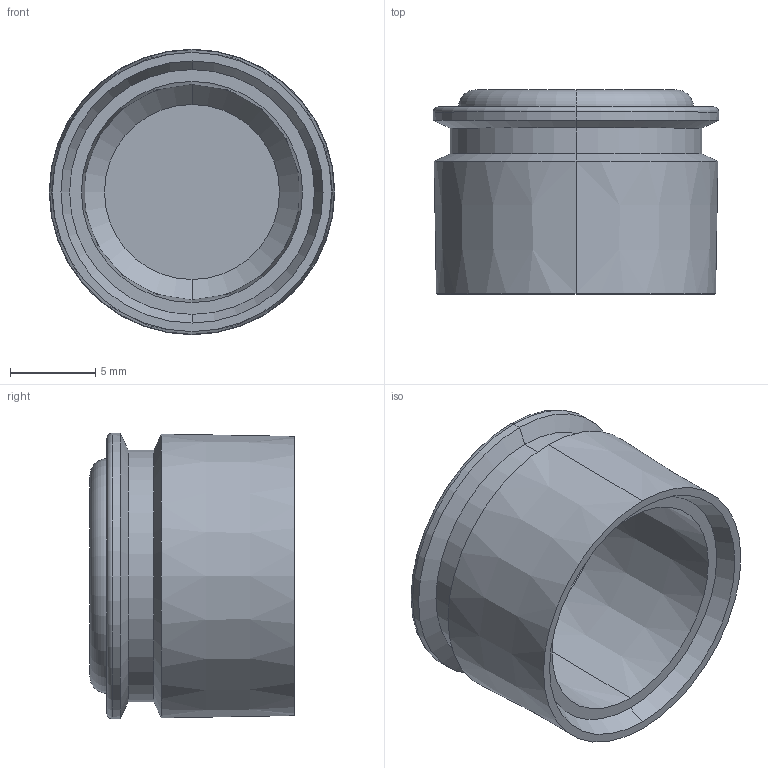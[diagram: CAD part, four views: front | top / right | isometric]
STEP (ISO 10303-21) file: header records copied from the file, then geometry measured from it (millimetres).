
FILE_DESCRIPTION (( 'STEP AP203' ), '1' );
FILE_NAME ('plc-pg-13.5-00.00.004 Óïëîòíèòåëü (PG13.5) #sealant (PG13.5)#.STEP', '2024-04-24T08:17:51', ( '' ), ( '' ), 'SwSTEP 2.0', 'SolidWorks 2021', '' );
FILE_SCHEMA (( 'CONFIG_CONTROL_DESIGN' ));
Length unit declared in the file: millimetre
Products named in the file (1): plc-pg-13.5-00.00.004 Óïëîòíèòåëü (PG13.5) #sealant (PG13.5)#
Bounding box: 16.79 x 12 x 16.79 mm (x, y, z)
Volume: 988.4 mm3; surface area: 1469.2 mm2
Topology: 1 solids, 1 shells, 25 faces, 48 edges, 28 vertices
Faces by surface type: cone 14, plane 5, torus 4, cylinder 2
Entity records: 715 total; most frequent: DIRECTION 132, CARTESIAN_POINT 102, ORIENTED_EDGE 96, AXIS2_PLACEMENT_3D 58, EDGE_CURVE 48, CIRCLE 32, VERTEX_POINT 28, EDGE_LOOP 28
